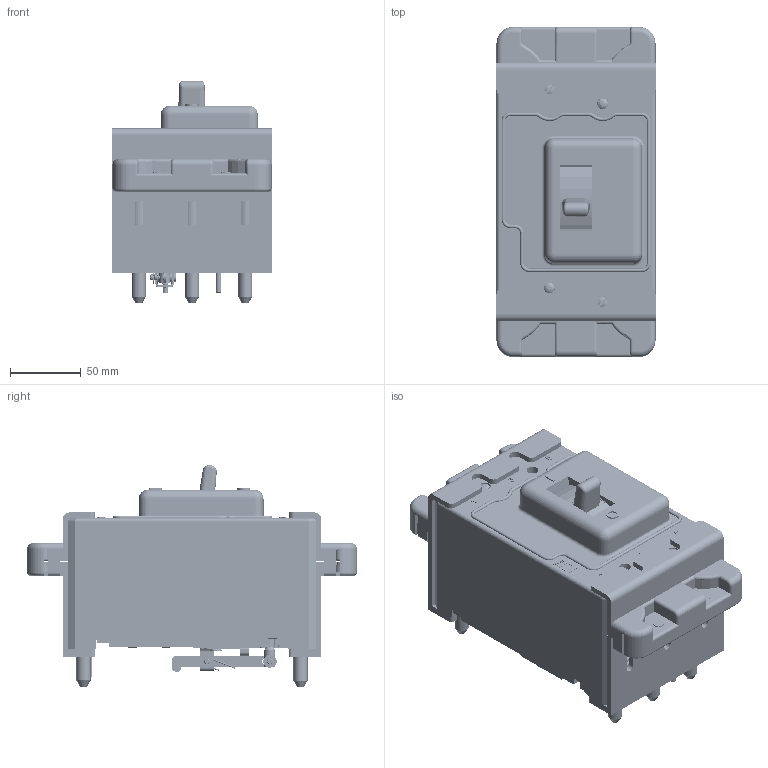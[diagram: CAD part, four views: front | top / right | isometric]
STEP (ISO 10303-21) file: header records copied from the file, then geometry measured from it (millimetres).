
FILE_DESCRIPTION (( 'STEP AP214' ), '1' );
FILE_NAME ('Âûêëþ÷àòåëü ÂÀ57-35 âòû÷íîãî èñïîëíåíèÿ.STEP', '2018-04-18T07:56:30', ( '' ), ( '' ), 'SwSTEP 2.0', 'SolidWorks 2018', '' );
FILE_SCHEMA (( 'AUTOMOTIVE_DESIGN' ));
Length unit declared in the file: millimetre
Products named in the file (1): Âûêëþ÷àòåëü ÂÀ57-35 âòû÷íîãî èñïîëíåíèÿ
Bounding box: 112.23 x 232.49 x 156.53 mm (x, y, z)
Volume: 948061.4 mm3; surface area: 529333.9 mm2
Topology: 80 solids, 80 shells, 5322 faces, 13966 edges, 8893 vertices
Faces by surface type: plane 2763, cylinder 1891, cone 284, torus 201, bspline 139, sphere 44
Entity records: 240923 total; most frequent: CARTESIAN_POINT 48745, DIRECTION 27830, ORIENTED_EDGE 27824, EDGE_CURVE 13912, AXIS2_PLACEMENT_3D 9483, VERTEX_POINT 8893, LINE 8864, VECTOR 8864
